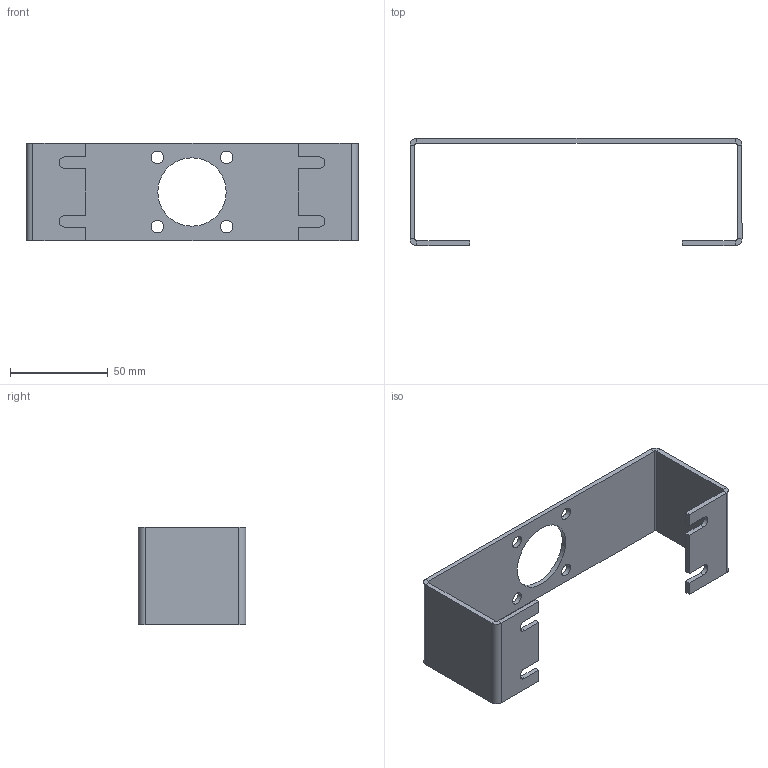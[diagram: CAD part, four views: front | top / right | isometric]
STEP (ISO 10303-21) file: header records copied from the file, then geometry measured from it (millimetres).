
FILE_DESCRIPTION (( 'STEP AP214' ), '1' );
FILE_NAME ('828.STEP', '2015-12-14T12:46:46', ( 'Bluecom' ), ( '' ), 'SwSTEP 2.0', 'SolidWorks 2015', '' );
FILE_SCHEMA (( 'AUTOMOTIVE_DESIGN' ));
Length unit declared in the file: millimetre
Products named in the file (1): 828
Bounding box: 170 x 55 x 50 mm (x, y, z)
Volume: 37383.7 mm3; surface area: 32516 mm2
Topology: 1 solids, 1 shells, 66 faces, 160 edges, 96 vertices
Faces by surface type: plane 42, cylinder 24
Entity records: 1950 total; most frequent: DIRECTION 342, CARTESIAN_POINT 323, ORIENTED_EDGE 320, EDGE_CURVE 160, AXIS2_PLACEMENT_3D 115, VECTOR 112, LINE 112, VERTEX_POINT 96
